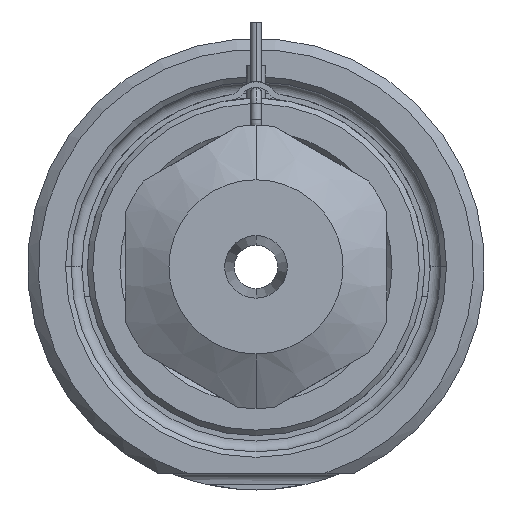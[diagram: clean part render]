
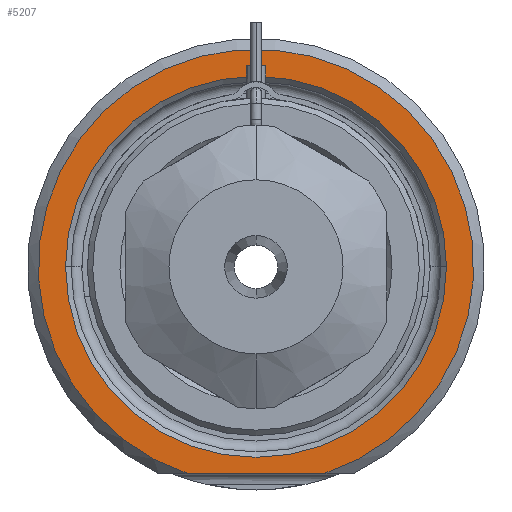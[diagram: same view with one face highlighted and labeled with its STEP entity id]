
A CAD part, front view. The second image highlights one B-rep face of the part: STEP entity #5207.
In plain terms, the highlighted planar face has unit normal (0, -1, 0).
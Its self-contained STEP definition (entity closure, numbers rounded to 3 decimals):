
#1591=DIRECTION('',(1.,0.,0.));
#1592=VECTOR('',#1591,12.49);
#1593=CARTESIAN_POINT('',(-6.245,0.,-19.));
#1594=LINE('',#1593,#1592);
#1595=CARTESIAN_POINT('',(0.,0.,0.));
#1596=DIRECTION('',(0.,1.,0.));
#1597=DIRECTION('',(-1.,0.,0.));
#1598=AXIS2_PLACEMENT_3D('',#1595,#1596,#1597);
#1600=CARTESIAN_POINT('',(0.,0.,0.));
#1601=DIRECTION('',(0.,1.,0.));
#1602=DIRECTION('',(1.,0.,0.));
#1603=AXIS2_PLACEMENT_3D('',#1600,#1601,#1602);
#1709=CARTESIAN_POINT('',(0.,0.,0.));
#1710=DIRECTION('',(0.,-1.,0.));
#1711=DIRECTION('',(0.312,0.,-0.95));
#1712=AXIS2_PLACEMENT_3D('',#1709,#1710,#1711);
#2807=CARTESIAN_POINT('',(-17.5,0.,0.));
#2808=CARTESIAN_POINT('',(17.5,0.,0.));
#2809=VERTEX_POINT('',#2807);
#2810=VERTEX_POINT('',#2808);
#2851=CARTESIAN_POINT('',(-6.245,0.,-19.));
#2852=CARTESIAN_POINT('',(6.245,0.,-19.));
#2853=VERTEX_POINT('',#2851);
#2854=VERTEX_POINT('',#2852);
#5191=CARTESIAN_POINT('',(0.,0.,0.));
#5192=DIRECTION('',(0.,-1.,0.));
#5193=DIRECTION('',(1.,0.,0.));
#5194=AXIS2_PLACEMENT_3D('',#5191,#5192,#5193);
#5195=PLANE('',#5194);
#5197=ORIENTED_EDGE('',*,*,#5196,.F.);
#5199=ORIENTED_EDGE('',*,*,#5198,.F.);
#5200=EDGE_LOOP('',(#5197,#5199));
#5201=FACE_OUTER_BOUND('',#5200,.F.);
#5202=ORIENTED_EDGE('',*,*,#5181,.F.);
#5204=ORIENTED_EDGE('',*,*,#5203,.F.);
#5205=EDGE_LOOP('',(#5202,#5204));
#5206=FACE_BOUND('',#5205,.F.);
#5207=ADVANCED_FACE('',(#5201,#5206),#5195,.T.);
#1599=CIRCLE('',#1598,17.5);
#1604=CIRCLE('',#1603,17.5);
#1713=CIRCLE('',#1712,20.);
#5181=EDGE_CURVE('',#2809,#2810,#1599,.T.);
#5196=EDGE_CURVE('',#2853,#2854,#1594,.T.);
#5198=EDGE_CURVE('',#2854,#2853,#1713,.T.);
#5203=EDGE_CURVE('',#2810,#2809,#1604,.T.);
